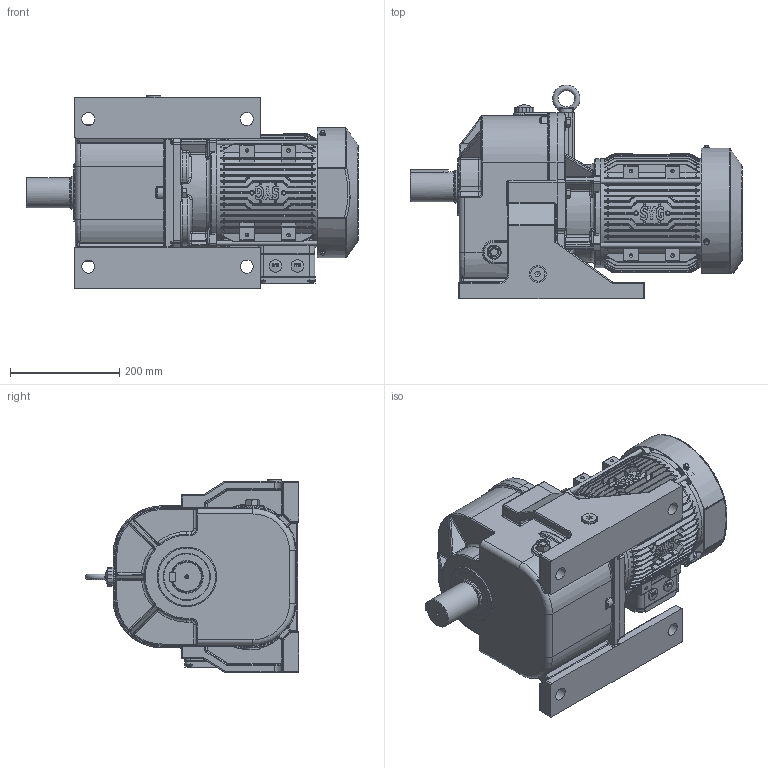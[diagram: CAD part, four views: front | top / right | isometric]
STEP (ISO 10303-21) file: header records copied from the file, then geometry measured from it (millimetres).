
FILE_DESCRIPTION(/* description */ (''),/* implementation_level */ '2;1');
FILE_NAME(/* name */ 'D:\▼ 3D：MG\01. 내부 직접 검토품\MG 205\외형도용 - ASS''Y\SK2\MG2050A - OUTLINE (SK2，HT，3.7kW).stp',/* time_stamp */ '2026-04-14T17:12:17+09:00',/* author */ ('이정훈'),/* organization */ (''),/* preprocessor_version */ 'ST-DEVELOPER v18.1',/* originating_system */ 'Autodesk Inventor 2022',/* authorisation */ '');
FILE_SCHEMA (('AUTOMOTIVE_DESIGN { 1 0 10303 214 3 1 1 }'));
Products named in the file (1): MG2050A - OUTLINE (SK2，HT，3.7kW
)
Bounding box: 607.5 x 391 x 353 mm (x, y, z)
Volume: 26581934.2 mm3; surface area: 1258381.2 mm2
Topology: 3 solids, 3 shells, 4845 faces, 12253 edges, 7454 vertices
Faces by surface type: plane 1638, cylinder 1535, bspline 1036, cone 281, torus 231, sphere 124
Full cylindrical faces by diameter (mm): 3 x2, 3.504 x2, 4 x1, 5.5 x3, 7.008 x1, 8 x4, 8.917 x7, 9 x4, 9.5 x4, 10 x7, 12 x7, 13 x2, 13.097 x1, 23 x3, 24 x4, 26 x2, 26.194 x1, 30 x3, 30.5 x1, 31 x1, 41 x1, 52 x1, 54.4 x1, 55 x1, 60 x2, 72 x1, 85 x1, 105 x1, 129 x1, 199 x2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
Entity records: 202223 total; most frequent: CARTESIAN_POINT 90142, ORIENTED_EDGE 24364, DIRECTION 22495, EDGE_CURVE 12182, AXIS2_PLACEMENT_3D 8840, VERTEX_POINT 7466, EDGE_LOOP 5008, FACE_OUTER_BOUND 4845
